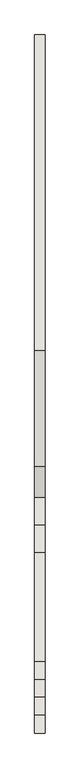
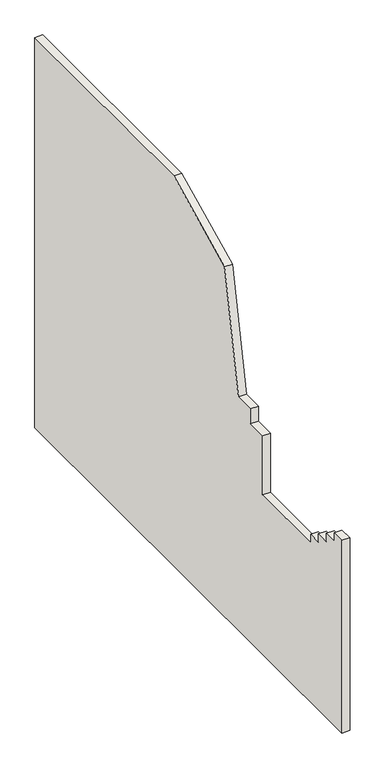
"""IFC4 building model written with IfcOpenShell, lengths in millimetres: wall geometry, 牆 1 : 牆 1."""

from ifc_helpers import new_model, si_unit, frame, origin, place, context, project, spatial, polyline, outline, extrude, source, transform, mapped, element, save


def wall_b3ecdf5a(model_context):
    return source(origin(), model_context, "Body", "SweptSolid", [
        extrude(outline(polyline([(6498.0105384, 4000.0), (6498.0105384, -3900.0), (-3701.9894616, -3900.0), (-3701.9894616, 0.0), (-3441.9894616, 0.0), (-3441.9894616, -169.5652174), (-3181.9894616, -169.5652174), (-3181.9894616, -339.1304348), (-2921.9894616, -339.1304348), (-2921.9894616, -508.6956522), (-2661.9894616, -508.6956522), (-2661.9894616, -678.2608696), (-1061.9894616, -678.2608696), (-1061.9894616, 521.7391304), (-661.9894616, 521.7391304), (-661.9894616, 821.7391304), (-261.9894616, 821.7391304), (195.9521273, 3177.6443707), (1882.0310332, 4000.0), (6498.0105384, 4000.0)])), frame((-12060.7213027, 0.0, 0.0), z_axis=(1.0, 0.0, 0.0), x_axis=(0.0, 1.0, 0.0)), (0.0, 0.0, 1.0), 150.0),
    ])


if __name__ == "__main__":
    model = new_model("IFC4")
    model_context = context("Model", 3, world=origin())
    ifc_project = project(units=[si_unit("LENGTHUNIT", "METRE", prefix="MILLI")], contexts=[model_context])
    site = spatial("IfcSite", under=ifc_project)
    building = spatial("IfcBuilding", under=site)
    placement = place(None, origin())
    wall_shape = wall_b3ecdf5a(model_context)
    element("IfcWall", 1, ObjectType="牆 1 : 牆 1", at=placement, inside=building, context=model_context, shape_type="MappedRepresentation", body=[
        mapped(wall_shape, transform((0.0, 0.0, 0.0), x_axis=(1.0, 0.0, 0.0), y_axis=(0.0, 1.0, 0.0), z_axis=(0.0, 0.0, 1.0))),
    ])
    save(model, "model.ifc")
